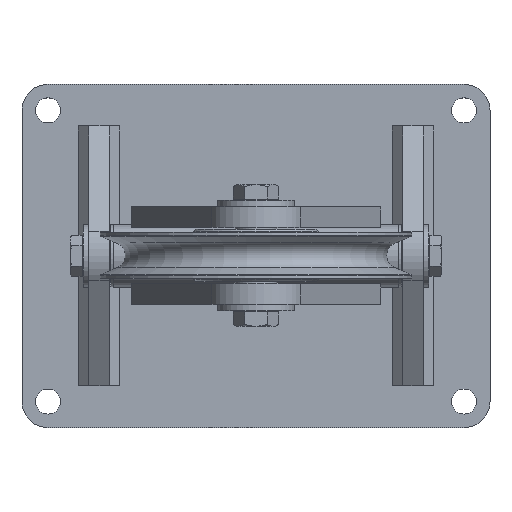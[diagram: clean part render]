
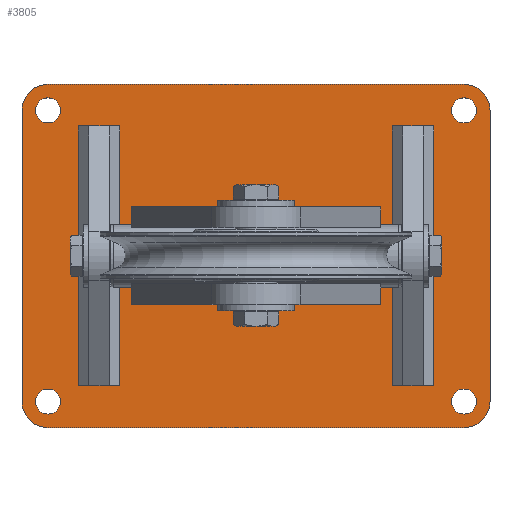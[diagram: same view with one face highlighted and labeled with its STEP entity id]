
A CAD part, top view. The second image highlights one B-rep face of the part: STEP entity #3805.
In plain terms, the highlighted planar face has unit normal (0, 0, 1).
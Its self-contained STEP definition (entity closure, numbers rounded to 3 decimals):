
#249=FACE_BOUND('',#970,.T.);
#250=FACE_BOUND('',#971,.T.);
#251=FACE_BOUND('',#972,.T.);
#252=FACE_BOUND('',#973,.T.);
#315=CIRCLE('',#4509,6.);
#316=CIRCLE('',#4510,6.);
#318=CIRCLE('',#4513,6.);
#319=CIRCLE('',#4514,6.);
#321=CIRCLE('',#4517,6.);
#322=CIRCLE('',#4518,6.);
#324=CIRCLE('',#4521,6.);
#325=CIRCLE('',#4522,6.);
#327=CIRCLE('',#4525,12.5);
#329=CIRCLE('',#4529,12.5);
#330=CIRCLE('',#4530,12.5);
#331=CIRCLE('',#4531,12.5);
#740=FACE_OUTER_BOUND('',#969,.T.);
#969=EDGE_LOOP('',(#2697,#2698,#2699,#2700,#2701,#2702,#2703,#2704));
#970=EDGE_LOOP('',(#2705,#2706));
#971=EDGE_LOOP('',(#2707,#2708));
#972=EDGE_LOOP('',(#2709,#2710));
#973=EDGE_LOOP('',(#2711,#2712));
#1280=LINE('',#6443,#1501);
#1283=LINE('',#6449,#1504);
#1284=LINE('',#6453,#1505);
#1285=LINE('',#6457,#1506);
#1501=VECTOR('',#5151,10.);
#1504=VECTOR('',#5156,10.);
#1505=VECTOR('',#5159,10.);
#1506=VECTOR('',#5162,10.);
#1704=VERTEX_POINT('',#6401);
#1705=VERTEX_POINT('',#6402);
#1707=VERTEX_POINT('',#6409);
#1708=VERTEX_POINT('',#6410);
#1710=VERTEX_POINT('',#6417);
#1711=VERTEX_POINT('',#6418);
#1713=VERTEX_POINT('',#6425);
#1714=VERTEX_POINT('',#6426);
#1716=VERTEX_POINT('',#6433);
#1717=VERTEX_POINT('',#6434);
#1720=VERTEX_POINT('',#6442);
#1722=VERTEX_POINT('',#6448);
#1723=VERTEX_POINT('',#6450);
#1724=VERTEX_POINT('',#6452);
#1725=VERTEX_POINT('',#6454);
#1726=VERTEX_POINT('',#6456);
#2100=EDGE_CURVE('',#1704,#1705,#315,.T.);
#2101=EDGE_CURVE('',#1705,#1704,#316,.T.);
#2104=EDGE_CURVE('',#1707,#1708,#318,.T.);
#2105=EDGE_CURVE('',#1708,#1707,#319,.T.);
#2108=EDGE_CURVE('',#1710,#1711,#321,.T.);
#2109=EDGE_CURVE('',#1711,#1710,#322,.T.);
#2112=EDGE_CURVE('',#1713,#1714,#324,.T.);
#2113=EDGE_CURVE('',#1714,#1713,#325,.T.);
#2116=EDGE_CURVE('',#1716,#1717,#327,.T.);
#2120=EDGE_CURVE('',#1720,#1717,#1280,.T.);
#2123=EDGE_CURVE('',#1716,#1722,#1283,.T.);
#2124=EDGE_CURVE('',#1723,#1722,#329,.T.);
#2125=EDGE_CURVE('',#1723,#1724,#1284,.T.);
#2126=EDGE_CURVE('',#1725,#1724,#330,.T.);
#2127=EDGE_CURVE('',#1725,#1726,#1285,.T.);
#2128=EDGE_CURVE('',#1720,#1726,#331,.T.);
#2697=ORIENTED_EDGE('',*,*,#2116,.F.);
#2698=ORIENTED_EDGE('',*,*,#2123,.T.);
#2699=ORIENTED_EDGE('',*,*,#2124,.F.);
#2700=ORIENTED_EDGE('',*,*,#2125,.T.);
#2701=ORIENTED_EDGE('',*,*,#2126,.F.);
#2702=ORIENTED_EDGE('',*,*,#2127,.T.);
#2703=ORIENTED_EDGE('',*,*,#2128,.F.);
#2704=ORIENTED_EDGE('',*,*,#2120,.T.);
#2705=ORIENTED_EDGE('',*,*,#2100,.T.);
#2706=ORIENTED_EDGE('',*,*,#2101,.T.);
#2707=ORIENTED_EDGE('',*,*,#2104,.T.);
#2708=ORIENTED_EDGE('',*,*,#2105,.T.);
#2709=ORIENTED_EDGE('',*,*,#2108,.T.);
#2710=ORIENTED_EDGE('',*,*,#2109,.T.);
#2711=ORIENTED_EDGE('',*,*,#2112,.T.);
#2712=ORIENTED_EDGE('',*,*,#2113,.T.);
#3684=PLANE('',#4528);
#3805=ADVANCED_FACE('',(#740,#249,#250,#251,#252),#3684,.T.);
#4509=AXIS2_PLACEMENT_3D('',#6403,#5107,#5108);
#4510=AXIS2_PLACEMENT_3D('',#6404,#5109,#5110);
#4513=AXIS2_PLACEMENT_3D('',#6411,#5116,#5117);
#4514=AXIS2_PLACEMENT_3D('',#6412,#5118,#5119);
#4517=AXIS2_PLACEMENT_3D('',#6419,#5125,#5126);
#4518=AXIS2_PLACEMENT_3D('',#6420,#5127,#5128);
#4521=AXIS2_PLACEMENT_3D('',#6427,#5134,#5135);
#4522=AXIS2_PLACEMENT_3D('',#6428,#5136,#5137);
#4525=AXIS2_PLACEMENT_3D('',#6435,#5143,#5144);
#4528=AXIS2_PLACEMENT_3D('',#6447,#5154,#5155);
#4529=AXIS2_PLACEMENT_3D('',#6451,#5157,#5158);
#4530=AXIS2_PLACEMENT_3D('',#6455,#5160,#5161);
#4531=AXIS2_PLACEMENT_3D('',#6458,#5163,#5164);
#5107=DIRECTION('center_axis',(0.,0.,-1.));
#5108=DIRECTION('ref_axis',(1.,0.,0.));
#5109=DIRECTION('center_axis',(0.,0.,-1.));
#5110=DIRECTION('ref_axis',(1.,0.,0.));
#5116=DIRECTION('center_axis',(0.,0.,-1.));
#5117=DIRECTION('ref_axis',(1.,0.,0.));
#5118=DIRECTION('center_axis',(0.,0.,-1.));
#5119=DIRECTION('ref_axis',(1.,0.,0.));
#5125=DIRECTION('center_axis',(0.,0.,-1.));
#5126=DIRECTION('ref_axis',(1.,0.,0.));
#5127=DIRECTION('center_axis',(0.,0.,-1.));
#5128=DIRECTION('ref_axis',(1.,0.,0.));
#5134=DIRECTION('center_axis',(0.,0.,-1.));
#5135=DIRECTION('ref_axis',(1.,0.,0.));
#5136=DIRECTION('center_axis',(0.,0.,-1.));
#5137=DIRECTION('ref_axis',(1.,0.,0.));
#5143=DIRECTION('center_axis',(0.,0.,-1.));
#5144=DIRECTION('ref_axis',(0.707,-0.707,0.));
#5151=DIRECTION('',(1.,0.,0.));
#5154=DIRECTION('center_axis',(0.,0.,1.));
#5155=DIRECTION('ref_axis',(1.,0.,0.));
#5156=DIRECTION('',(0.,1.,0.));
#5157=DIRECTION('center_axis',(0.,0.,-1.));
#5158=DIRECTION('ref_axis',(0.707,0.707,0.));
#5159=DIRECTION('',(-1.,0.,0.));
#5160=DIRECTION('center_axis',(0.,0.,-1.));
#5161=DIRECTION('ref_axis',(-0.707,0.707,0.));
#5162=DIRECTION('',(0.,-1.,0.));
#5163=DIRECTION('center_axis',(0.,0.,-1.));
#5164=DIRECTION('ref_axis',(-0.707,-0.707,0.));
#6401=CARTESIAN_POINT('',(106.,-70.,10.));
#6402=CARTESIAN_POINT('',(94.,-70.,10.));
#6403=CARTESIAN_POINT('Origin',(100.,-70.,10.));
#6404=CARTESIAN_POINT('Origin',(100.,-70.,10.));
#6409=CARTESIAN_POINT('',(-94.,70.,10.));
#6410=CARTESIAN_POINT('',(-106.,70.,10.));
#6411=CARTESIAN_POINT('Origin',(-100.,70.,10.));
#6412=CARTESIAN_POINT('Origin',(-100.,70.,10.));
#6417=CARTESIAN_POINT('',(106.,70.,10.));
#6418=CARTESIAN_POINT('',(94.,70.,10.));
#6419=CARTESIAN_POINT('Origin',(100.,70.,10.));
#6420=CARTESIAN_POINT('Origin',(100.,70.,10.));
#6425=CARTESIAN_POINT('',(-94.,-70.,10.));
#6426=CARTESIAN_POINT('',(-106.,-70.,10.));
#6427=CARTESIAN_POINT('Origin',(-100.,-70.,10.));
#6428=CARTESIAN_POINT('Origin',(-100.,-70.,10.));
#6433=CARTESIAN_POINT('',(112.5,-70.,10.));
#6434=CARTESIAN_POINT('',(100.,-82.5,10.));
#6435=CARTESIAN_POINT('Origin',(100.,-70.,10.));
#6442=CARTESIAN_POINT('',(-100.,-82.5,10.));
#6443=CARTESIAN_POINT('',(112.5,-82.5,10.));
#6447=CARTESIAN_POINT('Origin',(0.,0.,10.));
#6448=CARTESIAN_POINT('',(112.5,70.,10.));
#6449=CARTESIAN_POINT('',(112.5,82.5,10.));
#6450=CARTESIAN_POINT('',(100.,82.5,10.));
#6451=CARTESIAN_POINT('Origin',(100.,70.,10.));
#6452=CARTESIAN_POINT('',(-100.,82.5,10.));
#6453=CARTESIAN_POINT('',(-112.5,82.5,10.));
#6454=CARTESIAN_POINT('',(-112.5,70.,10.));
#6455=CARTESIAN_POINT('Origin',(-100.,70.,10.));
#6456=CARTESIAN_POINT('',(-112.5,-70.,10.));
#6457=CARTESIAN_POINT('',(-112.5,-82.5,10.));
#6458=CARTESIAN_POINT('Origin',(-100.,-70.,10.));
